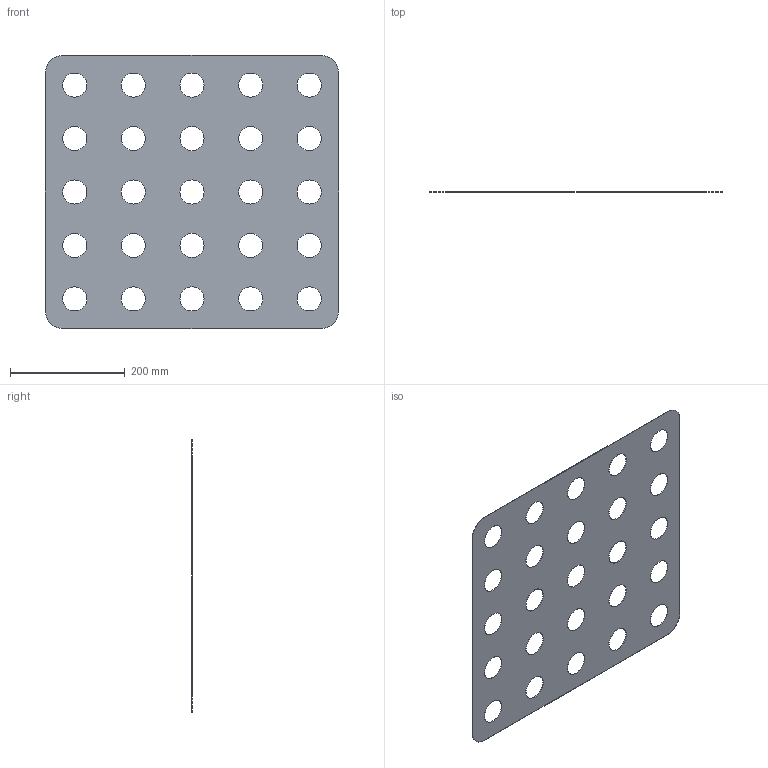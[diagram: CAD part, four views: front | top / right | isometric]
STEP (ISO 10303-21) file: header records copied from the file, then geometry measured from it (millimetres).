
FILE_DESCRIPTION(/* description */ (''),/* implementation_level */ '2;1');
FILE_NAME(/* name */ 'Z:\01-DesignData\標準品図面\★Web／カタログ用データ(型式別 3点Set)\060-MS 系\MS-510x475-25.stp',/* time_stamp */ '2021-08-06T11:09:34+09:00',/* author */ ('j-ito'),/* organization */ (''),/* preprocessor_version */ 'ST-DEVELOPER v18.1',/* originating_system */ 'Autodesk Inventor 2022',/* authorisation */ '');
FILE_SCHEMA (('AUTOMOTIVE_DESIGN { 1 0 10303 214 3 1 1 }'));
Length unit declared in the file: millimetre
Products named in the file (1): MS-510x475-25
Bounding box: 510 x 0.8 x 475 mm (x, y, z)
Volume: 165473.1 mm3; surface area: 417856.5 mm2
Topology: 1 solids, 1 shells, 35 faces, 99 edges, 66 vertices
Faces by surface type: cylinder 29, plane 6
Full cylindrical faces by diameter (mm): 42 x25
Entity records: 1312 total; most frequent: DIRECTION 229, CARTESIAN_POINT 201, ORIENTED_EDGE 198, EDGE_CURVE 99, AXIS2_PLACEMENT_3D 94, EDGE_LOOP 85, VERTEX_POINT 66, CIRCLE 58
